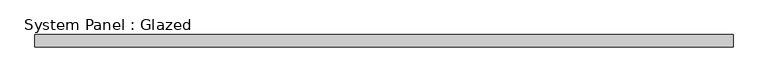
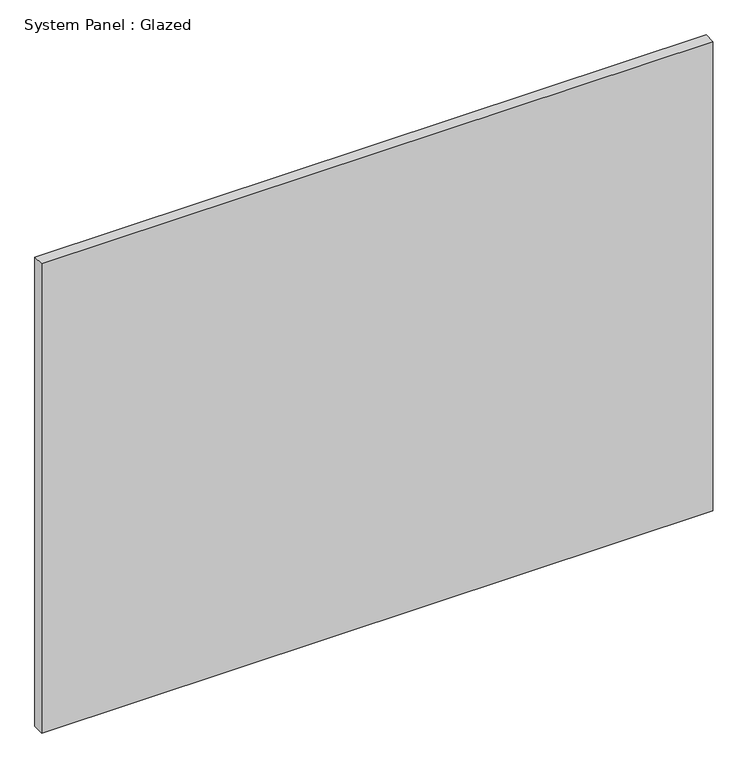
"""IFC4 building model written with IfcOpenShell, lengths in millimetres: plate geometry, System Panel : Glazed."""

import ifcopenshell
import ifcopenshell.guid

model = None  # the IFC model being written
_history = None  # IfcOwnerHistory: only IFC2X3 demands one
_inside = {}  # id of a spatial element -> (the spatial element, [elements in it])
_under = {}  # id of a project, library or spatial element -> (it, [spatial elements below it])
_declared = {}  # id of a project -> (the project, [libraries it declares])
_typed = {}  # id of a type object -> (the type object, [elements of that type])
_made_of = {}  # id of a material, layer set ... -> (it, [elements and type objects made of it])


def new_model(schema):
    """Start an empty IFC model of exactly this schema.

    Asked for "IFC4X3", IfcOpenShell would pick the latest addendum, in which some entities
    have other attributes; the version numbers below select the first issue.
    IFC2X3 requires an IfcOwnerHistory on every rooted entity: one is made here for all.
    """
    global model, _history
    if schema == "IFC4X3":
        model = ifcopenshell.file(schema_version=(4, 3, 0, 0))
    else:
        model = ifcopenshell.file(schema=schema)
    _inside.clear()
    _under.clear()
    _declared.clear()
    _typed.clear()
    _made_of.clear()
    _history = None
    if model.schema == "IFC2X3":
        org = make("IfcOrganization", Name="unknown")
        user = make(
            "IfcPersonAndOrganization",
            ThePerson=make("IfcPerson", FamilyName="unknown"),
            TheOrganization=org,
        )
        app = make(
            "IfcApplication",
            ApplicationDeveloper=org,
            Version="unknown",
            ApplicationFullName="unknown",
            ApplicationIdentifier="unknown",
        )
        _history = make(
            "IfcOwnerHistory",
            OwningUser=user,
            OwningApplication=app,
            ChangeAction="ADDED",
            CreationDate=0,
        )
    return model


def make(cls, **values):
    """One entity of the class cls with the attributes given. An attribute that is None is left unset."""
    return model.create_entity(
        cls, **{name: value for name, value in values.items() if value is not None}
    )


def rooted(cls, **values):
    """An entity with a GlobalId (a new one), such as an element, a storey or a relation."""
    return make(cls, GlobalId=ifcopenshell.guid.new(), OwnerHistory=_history, **values)


def si_unit(unit_type, name, prefix=None):
    """IfcSIUnit, for example si_unit("LENGTHUNIT", "METRE", prefix="MILLI")."""
    return make("IfcSIUnit", UnitType=unit_type, Prefix=prefix, Name=name)


def assignment(units):
    """IfcUnitAssignment: the units of a project."""
    return None if units is None else make("IfcUnitAssignment", Units=units)


def point(xyz):
    """IfcCartesianPoint."""
    return None if xyz is None else make("IfcCartesianPoint", Coordinates=xyz)


def direction(xyz):
    """IfcDirection."""
    return None if xyz is None else make("IfcDirection", DirectionRatios=xyz)


def frame(location, z_axis=None, x_axis=None):
    """IfcAxis2Placement3D, a coordinate frame: its origin and axes. An axis left out is left unset."""
    return make(
        "IfcAxis2Placement3D",
        Location=point(location),
        Axis=direction(z_axis),
        RefDirection=direction(x_axis),
    )


def origin():
    """The frame at (0, 0, 0) with its axes left unset."""
    return frame((0.0, 0.0, 0.0))


def origin_with_axes():
    """The frame at (0, 0, 0) with the z axis (0, 0, 1) and the x axis (1, 0, 0) written out."""
    return frame((0.0, 0.0, 0.0), z_axis=(0.0, 0.0, 1.0), x_axis=(1.0, 0.0, 0.0))


def place(relative_to, where):
    """IfcLocalPlacement: puts the frame where relative to a parent placement (None: the world)."""
    return make(
        "IfcLocalPlacement", PlacementRelTo=relative_to, RelativePlacement=where
    )


def context(
    kind, dimensions, precision=None, world=None, true_north=None, identifier=None
):
    """IfcGeometricRepresentationContext, for example the 3D "Model" context."""
    return make(
        "IfcGeometricRepresentationContext",
        ContextIdentifier=identifier,
        ContextType=kind,
        CoordinateSpaceDimension=dimensions,
        Precision=precision,
        WorldCoordinateSystem=world,
        TrueNorth=true_north,
    )


def project(units=None, contexts=None):
    """IfcProject with its units and contexts."""
    return rooted(
        "IfcProject",
        Name="project",
        RepresentationContexts=contexts,
        UnitsInContext=assignment(units),
    )


def spatial(cls, under=None, at=None, **own):
    """A site, building, storey or space (cls), placed at a placement, below another one or the project."""
    s = rooted(cls, ObjectPlacement=at, **own)
    if under is not None:
        _under.setdefault(under.id(), (under, []))[1].append(s)
    return s


def polyline(points):
    """IfcPolyline through the points."""
    return make("IfcPolyline", Points=[point(p) for p in points])


def outline(outer, holes=None, kind="AREA"):
    """IfcArbitraryClosedProfileDef: a profile drawn as a closed curve; with holes, ...WithVoids."""
    if holes is None:
        return make("IfcArbitraryClosedProfileDef", ProfileType=kind, OuterCurve=outer)
    return make(
        "IfcArbitraryProfileDefWithVoids",
        ProfileType=kind,
        OuterCurve=outer,
        InnerCurves=holes,
    )


def extrude(swept, where, along, depth):
    """IfcExtrudedAreaSolid: the profile swept, set in the frame where, extruded along a direction by depth."""
    return make(
        "IfcExtrudedAreaSolid",
        SweptArea=swept,
        Position=where,
        ExtrudedDirection=direction(along),
        Depth=depth,
    )


def shape(context_of_items, identifier, shape_type, items):
    """IfcShapeRepresentation: the items that make up one representation, for example the "Body"."""
    return make(
        "IfcShapeRepresentation",
        ContextOfItems=context_of_items,
        RepresentationIdentifier=identifier,
        RepresentationType=shape_type,
        Items=items,
    )


def source(mapping_origin, context_of_items, identifier, shape_type, items):
    """IfcRepresentationMap: a shape defined once, which mapped items show again and again."""
    return make(
        "IfcRepresentationMap",
        MappingOrigin=mapping_origin,
        MappedRepresentation=shape(context_of_items, identifier, shape_type, items),
    )


def transform(
    local_origin,
    x_axis=None,
    y_axis=None,
    z_axis=None,
    scale=None,
    scale2=None,
    scale3=None,
    uniform=True,
):
    """IfcCartesianTransformationOperator3D, or its non-uniform kind. x_axis, y_axis, z_axis: its Axis1, 2, 3."""
    if uniform:
        return make(
            "IfcCartesianTransformationOperator3D",
            Axis1=direction(x_axis),
            Axis2=direction(y_axis),
            LocalOrigin=point(local_origin),
            Scale=scale,
            Axis3=direction(z_axis),
        )
    return make(
        "IfcCartesianTransformationOperator3DnonUniform",
        Axis1=direction(x_axis),
        Axis2=direction(y_axis),
        LocalOrigin=point(local_origin),
        Scale=scale,
        Axis3=direction(z_axis),
        Scale2=scale2,
        Scale3=scale3,
    )


def mapped(mapping_source, mapping_target):
    """IfcMappedItem: shows the shape of a source again, moved by a transform."""
    return make(
        "IfcMappedItem", MappingSource=mapping_source, MappingTarget=mapping_target
    )


def made_of(thing, what):
    """Note that an element or type object is made of a material, layer set ...; save() writes the relation."""
    if what is not None:
        _made_of.setdefault(what.id(), (what, []))[1].append(thing)
    return thing


def element(
    cls,
    number,
    at=None,
    inside=None,
    cuts=None,
    type_object=None,
    material=None,
    context=None,
    identifier="Body",
    shape_type=None,
    held_by="IfcProductDefinitionShape",
    body=None,
    shapes=None,
    **own,
):
    """One element of the class cls, such as IfcWall. Its Tag is "e" and its number.

    at: its placement. inside: the storey or other place that contains it. cuts: it is an
    opening in that element (IfcRelVoidsElement). A single representation is given by context,
    identifier, shape_type and body (its items); several are given by shapes. held_by: the class
    of the entity that holds the representations. save() writes the other relations.
    """
    e = rooted(cls, Tag="e%d" % number, ObjectPlacement=at, **own)
    if body is not None:
        shapes = [shape(context, identifier, shape_type, body)]
    if shapes is not None:
        e.Representation = make(held_by, Representations=shapes)
    if inside is not None:
        _inside.setdefault(inside.id(), (inside, []))[1].append(e)
    if cuts is not None:
        rooted(
            "IfcRelVoidsElement", RelatingBuildingElement=cuts, RelatedOpeningElement=e
        )
    if type_object is not None:
        _typed.setdefault(type_object.id(), (type_object, []))[1].append(e)
    return made_of(e, material)


def aggregate(whole, parts):
    """IfcRelAggregates: a whole, such as a stair, and the parts it consists of."""
    return rooted("IfcRelAggregates", RelatingObject=whole, RelatedObjects=parts)


def save(model, path):
    """Write the relations noted so far, then the file.

    IfcRelAggregates (storeys below a building ...), IfcRelContainedInSpatialStructure (elements
    in a storey), IfcRelDefinesByType, IfcRelAssociatesMaterial and IfcRelDeclares: one each for
    every whole, place, type object, material and project.
    """
    for whole, parts in _under.values():
        aggregate(whole, parts)
    for where, things in _inside.values():
        rooted(
            "IfcRelContainedInSpatialStructure",
            RelatedElements=things,
            RelatingStructure=where,
        )
    for kind, things in _typed.values():
        rooted("IfcRelDefinesByType", RelatedObjects=things, RelatingType=kind)
    for what, things in _made_of.values():
        rooted("IfcRelAssociatesMaterial", RelatedObjects=things, RelatingMaterial=what)
    for by, libraries in _declared.values():
        rooted("IfcRelDeclares", RelatingContext=by, RelatedDefinitions=libraries)
    model.write(path)


def system_panel_glazed_38e8219a(model_context):
    return source(origin(), model_context, "Body", "SweptSolid", [
        extrude(outline(polyline([(730.25, 19.05), (-730.25, 19.05), (-730.25, 44.45), (730.25, 44.45), (730.25, 19.05)])), origin_with_axes(), (0.0, 0.0, 1.0), 1079.5765619),
    ])


if __name__ == "__main__":
    model = new_model("IFC4")
    model_context = context("Model", 3, world=origin())
    ifc_project = project(units=[si_unit("LENGTHUNIT", "METRE", prefix="MILLI")], contexts=[model_context])
    site = spatial("IfcSite", under=ifc_project)
    building = spatial("IfcBuilding", under=site)
    placement = place(None, origin())
    system_panel_glazed_shape = system_panel_glazed_38e8219a(model_context)
    element("IfcPlate", 1, ObjectType="System Panel : Glazed", at=placement, inside=building, context=model_context, shape_type="MappedRepresentation", body=[
        mapped(system_panel_glazed_shape, transform((0.0, 0.0, 0.0), x_axis=(1.0, 0.0, 0.0), y_axis=(0.0, 1.0, 0.0), z_axis=(0.0, 0.0, 1.0))),
    ])
    save(model, "model.ifc")
